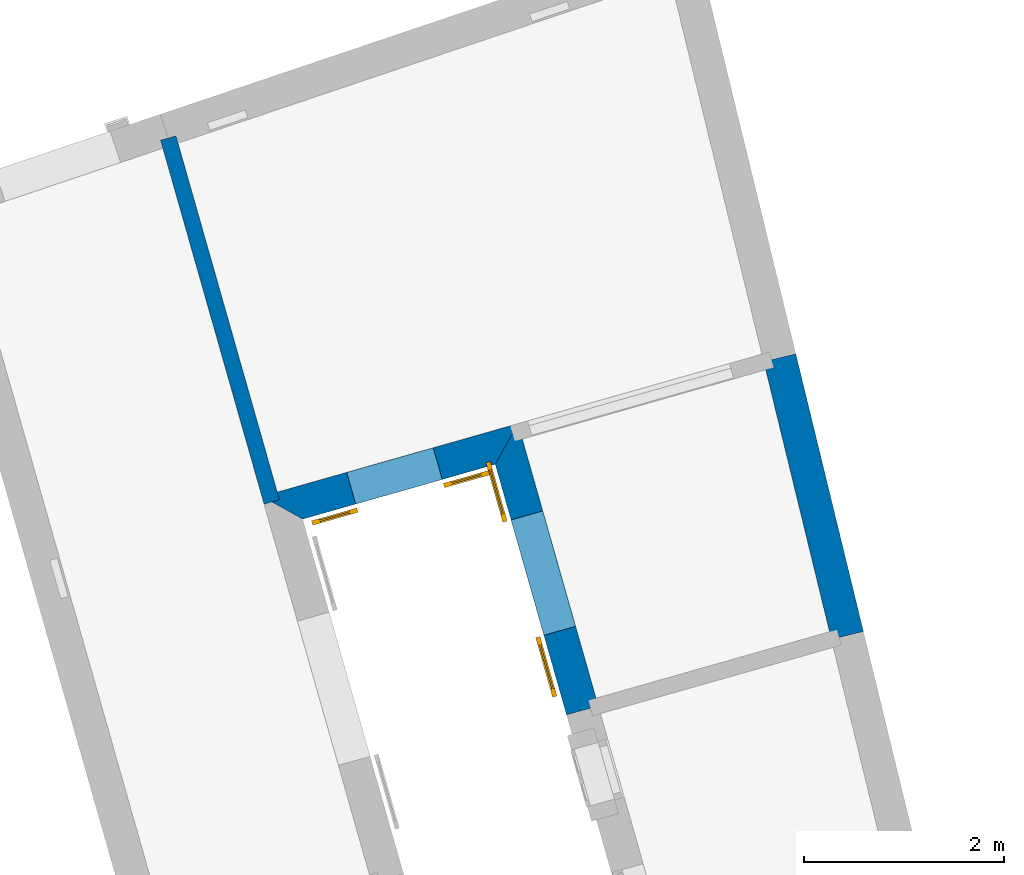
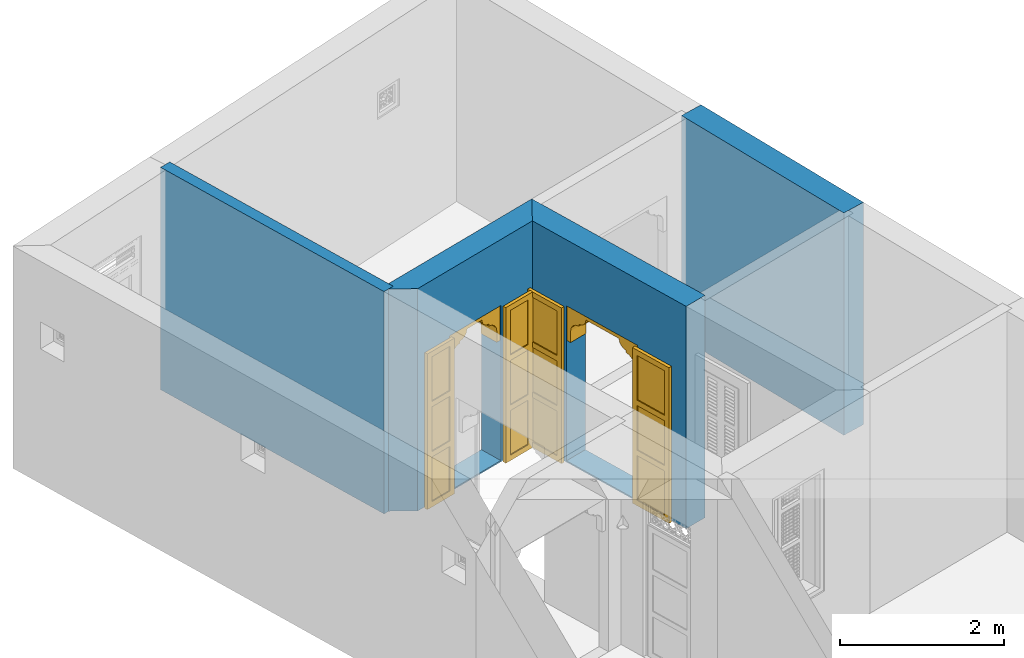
# One storey, part 10 of 14: 4 walls, 2 doors, 2 openings.
"""IFC4 building model written with IfcOpenShell, lengths in metres."""

from ifc_helpers import new_model, si_unit, frame, origin, origin_with_axes, place, context, subcontext, project, spatial, polyline, outline, extrude, faceted_brep, source, transform, mapped, material, layer, layer_set, layer_usage, type_object, type_shapes, element, fill, save


model = new_model("IFC4")

# Units and contexts
model_context = context("Model", 3, world=origin_with_axes())
body_context = subcontext(model_context, "Body", "Model", "MODEL_VIEW")
ifc_project = project(units=[si_unit("PLANEANGLEUNIT", "RADIAN"), si_unit("MASSUNIT", "GRAM", prefix="KILO"), si_unit("FORCEUNIT", "NEWTON", prefix="KILO"), si_unit("LENGTHUNIT", "METRE"), si_unit("AREAUNIT", "SQUARE_METRE"), si_unit("VOLUMEUNIT", "CUBIC_METRE")], contexts=[model_context, model_context])

# Site, building, storey
site_placement = place(None, origin_with_axes())
site = spatial("IfcSite", under=ifc_project, at=site_placement, Name="Site plot-3", CompositionType="ELEMENT")
building_placement = place(None, origin_with_axes())
building = spatial("IfcBuilding", under=site, at=building_placement, Name="Building plot-3", CompositionType="ELEMENT")
storey_placement = place(None, origin_with_axes())
storey = spatial("IfcBuildingStorey", under=building, at=storey_placement, Name="plot-3 0", CompositionType="ELEMENT", Elevation=0.0)

# Wall, opening, door
ifc_material_1 = material(Name="Masonry")
ifc_layer_1 = layer(ifc_material_1, 0.33, ventilated=False)
ifc_layer_set_1 = layer_set([ifc_layer_1], Name="exterior_0.08_0.25")
ifc_layer_usage_1 = layer_usage(ifc_layer_set_1, "AXIS2", "POSITIVE", -0.25)
wall_type_1 = type_object("IfcWallType", Name="exterior_0.08_0.25", PredefinedType="SOLIDWALL", material=ifc_layer_set_1)
wall_1_placement = place(storey_placement, frame((10.0595193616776, 25.1326103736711, 0.0), z_axis=(0.0, 0.0, 1.0), x_axis=(0.961841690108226, 0.273606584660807, 0.0)))
wall_1 = element("IfcWall", 1, at=wall_1_placement, inside=storey, type_object=wall_type_1, material=ifc_layer_usage_1, Name="exterior", context=body_context, shape_type="SweptSolid", body=[
    extrude(outline(polyline([(-0.0800000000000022, 0.0800000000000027), (0.250000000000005, -0.249999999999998), (2.25293777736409, -0.250000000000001), (2.58293777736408, 0.0799999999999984), (-0.0800000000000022, 0.0800000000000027)])), origin_with_axes(), (0.0, 0.0, 1.0), 3.3),
])
opening_1_placement = place(wall_1_placement, frame((0.801468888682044, 0.0, 0.02)))
opening_1 = element("IfcOpeningElement", 2, at=opening_1_placement, cuts=wall_1, Name="My Opening", ObjectType="Opening", context=body_context, shape_type="SweptSolid", body=[
    extrude(outline(polyline([(0.0, -0.27), (0.9, -0.270000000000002), (0.899999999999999, 1.1), (-1.55431223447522e-15, 1.1), (0.0, -0.27)])), origin_with_axes(), (0.0, 0.0, 1.0), 2.3),
])
door_type_1 = type_object("IfcDoorType", Name="arch-900x2300", OperationType="SINGLE_SWING_LEFT", PredefinedType="NOTDEFINED")
shared_shape_1 = source(origin(), body_context, "Body", "Brep", [
    faceted_brep([(-0.08, -0.02, 0.08), (-0.08, -0.02, 0.0), (-0.39, -0.02, 0.0), (-0.39, -0.02, 0.08), (-0.47, -0.02, 0.0), (-0.47, -0.02, 0.08), (-0.39, -0.035, 0.08), (-0.08, -0.035, 0.08), (0.0, -0.02, 0.08), (0.0, -0.02, 0.0), (-0.08, -0.066, 0.0), (-0.39, -0.066, 0.0), (-0.47, -0.066, 0.0), (-0.47, -0.066, 0.08), (-0.39, -0.02, 0.743333), (-0.47, -0.02, 0.743333), (-0.39, -0.035, 0.743333), (-0.08, -0.035, 0.743333), (-0.08, -0.02, 0.743333), (0.0, -0.02, 0.743333), (0.0, -0.066, 0.08), (0.0, -0.066, 0.0), (-0.39, -0.066, 0.08), (-0.08, -0.066, 0.08), (-0.47, -0.066, 0.743333), (-0.39, -0.02, 0.823333), (-0.47, -0.02, 0.823333), (0.0, -0.066, 0.743333), (0.0, -0.02, 0.823333), (-0.08, -0.02, 0.823333), (-0.08, -0.051, 0.08), (-0.39, -0.051, 0.08), (-0.39, -0.066, 0.743333), (-0.47, -0.066, 0.823333), (-0.39, -0.02, 1.486667), (-0.47, -0.02, 1.486667), (0.0, -0.066, 0.823333), (-0.08, -0.066, 0.743333), (0.0, -0.02, 1.486667), (-0.08, -0.02, 1.486667), (-0.08, -0.051, 0.743333), (-0.39, -0.051, 0.743333), (-0.39, -0.066, 0.823333), (-0.47, -0.066, 1.486667), (-0.39, -0.035, 0.823333), (-0.08, -0.035, 0.823333), (-0.39, -0.035, 1.486667), (-0.39, -0.02, 1.566667), (-0.47, -0.02, 1.566667), (0.0, -0.066, 1.486667), (-0.08, -0.066, 0.823333), (-0.08, -0.035, 1.486667), (0.0, -0.02, 1.566667), (-0.08, -0.02, 1.566667), (-0.39, -0.066, 1.486667), (-0.47, -0.066, 1.566667), (-0.39, -0.02, 2.23), (-0.47, -0.02, 2.23), (0.0, -0.066, 1.566667), (-0.08, -0.066, 1.486667), (0.0, -0.02, 2.23), (-0.08, -0.02, 2.23), (-0.08, -0.051, 0.823333), (-0.39, -0.051, 0.823333), (-0.39, -0.051, 1.486667), (-0.39, -0.066, 1.566667), (-0.47, -0.066, 2.23), (-0.39, -0.035, 1.566667), (-0.08, -0.035, 1.566667), (-0.39, -0.035, 2.23), (-0.39, -0.02, 2.31), (-0.47, -0.02, 2.31), (0.0, -0.066, 2.23), (-0.08, -0.066, 1.566667), (-0.08, -0.051, 1.486667), (-0.08, -0.035, 2.23), (0.0, -0.02, 2.31), (-0.08, -0.02, 2.31), (-0.39, -0.066, 2.23), (-0.47, -0.066, 2.31), (-0.39, -0.066, 2.31), (0.0, -0.066, 2.31), (-0.08, -0.066, 2.23), (-0.08, -0.066, 2.31), (-0.08, -0.051, 1.566667), (-0.39, -0.051, 1.566667), (-0.39, -0.051, 2.23), (-0.08, -0.051, 2.23), (1.29, -0.02, 0.08), (1.29, -0.02, 0.0), (0.98, -0.02, 0.0), (0.98, -0.02, 0.08), (1.37, -0.02, 0.08), (1.37, -0.02, 0.0), (0.98, -0.035, 0.08), (1.29, -0.035, 0.08), (0.9, -0.02, 0.0), (0.9, -0.02, 0.08), (1.29, -0.066, 0.0), (0.98, -0.066, 0.0), (1.37, -0.066, 0.08), (1.37, -0.066, 0.0), (1.37, -0.02, 0.743333), (1.29, -0.02, 0.743333), (1.29, -0.035, 0.743333), (0.98, -0.035, 0.743333), (0.98, -0.02, 0.743333), (0.9, -0.02, 0.743333), (0.9, -0.066, 0.0), (0.9, -0.066, 0.08), (0.98, -0.066, 0.08), (1.29, -0.066, 0.08), (1.37, -0.066, 0.743333), (1.37, -0.02, 0.823333), (1.29, -0.02, 0.823333), (0.9, -0.066, 0.743333), (0.98, -0.02, 0.823333), (0.9, -0.02, 0.823333), (1.29, -0.051, 0.08), (0.98, -0.051, 0.08), (1.29, -0.066, 0.743333), (1.37, -0.066, 0.823333), (1.37, -0.02, 1.486667), (1.29, -0.02, 1.486667), (0.9, -0.066, 0.823333), (0.98, -0.066, 0.743333), (0.98, -0.02, 1.486667), (0.9, -0.02, 1.486667), (0.98, -0.051, 0.743333), (1.29, -0.051, 0.743333), (1.29, -0.066, 0.823333), (1.37, -0.066, 1.486667), (0.98, -0.035, 0.823333), (1.29, -0.035, 0.823333), (1.29, -0.035, 1.486667), (1.37, -0.02, 1.566667), (1.29, -0.02, 1.566667), (0.9, -0.066, 1.486667), (0.98, -0.066, 0.823333), (0.98, -0.035, 1.486667), (0.98, -0.02, 1.566667), (0.9, -0.02, 1.566667), (1.29, -0.066, 1.486667), (1.37, -0.066, 1.566667), (1.37, -0.02, 2.23), (1.29, -0.02, 2.23), (0.9, -0.066, 1.566667), (0.98, -0.066, 1.486667), (0.98, -0.02, 2.23), (0.9, -0.02, 2.23), (1.29, -0.051, 0.823333), (0.98, -0.051, 0.823333), (1.29, -0.051, 1.486667), (1.29, -0.066, 1.566667), (1.37, -0.066, 2.23), (0.98, -0.035, 1.566667), (1.29, -0.035, 1.566667), (1.29, -0.035, 2.23), (1.37, -0.02, 2.31), (1.29, -0.02, 2.31), (0.9, -0.066, 2.23), (0.98, -0.066, 1.566667), (0.98, -0.051, 1.486667), (0.98, -0.035, 2.23), (0.98, -0.02, 2.31), (0.9, -0.02, 2.31), (1.29, -0.066, 2.23), (1.37, -0.066, 2.31), (1.29, -0.066, 2.31), (0.9, -0.066, 2.31), (0.98, -0.066, 2.23), (0.98, -0.066, 2.31), (1.29, -0.051, 1.566667), (0.98, -0.051, 1.566667), (1.29, -0.051, 2.23), (0.98, -0.051, 2.23), (0.9, 0.03, 1.78), (0.9, 0.03, 1.95), (0.84, 0.03, 1.95), (0.84, 0.03, 1.78), (0.84, 0.3, 1.95), (0.84, 0.3, 1.78), (0.9, 0.03, 2.12), (0.829, 0.03, 2.004), (0.9, 0.3, 1.78), (0.9, 0.3, 1.95), (0.829, 0.3, 2.004), (0.799, 0.03, 2.049), (0.9, 0.3, 2.12), (0.799, 0.3, 2.049), (0.754, 0.03, 2.079), (0.9, 0.3, 2.29), (0.9, 0.03, 2.29), (0.754, 0.3, 2.079), (0.7, 0.03, 2.09), (0.7, 0.03, 2.12), (0.654, 0.03, 2.129), (0.58, 0.3, 2.29), (0.58, 0.03, 2.29), (0.7, 0.3, 2.12), (0.654, 0.3, 2.129), (0.7, 0.3, 2.09), (0.615, 0.03, 2.155), (0.589, 0.3, 2.194), (0.58, 0.3, 2.24), (0.58, 0.03, 2.24), (0.589, 0.03, 2.194), (0.615, 0.3, 2.155), (0.06, 0.03, 1.78), (0.06, 0.03, 1.95), (0.0, 0.03, 1.95), (0.0, 0.03, 1.78), (0.06, 0.3, 1.78), (0.06, 0.3, 1.95), (0.071, 0.03, 2.004), (0.0, 0.03, 2.12), (0.0, 0.3, 1.95), (0.0, 0.3, 1.78), (0.071, 0.3, 2.004), (0.101, 0.03, 2.049), (0.0, 0.3, 2.12), (0.101, 0.3, 2.049), (0.146, 0.03, 2.079), (0.0, 0.03, 2.29), (0.0, 0.3, 2.29), (0.146, 0.3, 2.079), (0.2, 0.03, 2.12), (0.2, 0.03, 2.09), (0.246, 0.03, 2.129), (0.32, 0.03, 2.29), (0.32, 0.3, 2.29), (0.246, 0.3, 2.129), (0.2, 0.3, 2.12), (0.2, 0.3, 2.09), (0.285, 0.03, 2.155), (0.32, 0.3, 2.24), (0.311, 0.3, 2.194), (0.311, 0.03, 2.194), (0.32, 0.03, 2.24), (0.285, 0.3, 2.155)], [[[0, 1, 2, 3]], [[4, 5, 3, 2]], [[0, 3, 6, 7]], [[1, 0, 8, 9]], [[2, 1, 10, 11]], [[5, 4, 12, 13]], [[14, 3, 5, 15]], [[4, 2, 11, 12]], [[3, 14, 16, 6]], [[6, 16, 17, 7]], [[18, 0, 7, 17]], [[0, 18, 19, 8]], [[9, 8, 20, 21]], [[1, 9, 21, 10]], [[22, 11, 10, 23]], [[13, 12, 11, 22]], [[15, 5, 13, 24]], [[25, 14, 15, 26]], [[14, 18, 17, 16]], [[8, 19, 27, 20]], [[28, 19, 18, 29]], [[23, 10, 21, 20]], [[22, 23, 30, 31]], [[22, 32, 24, 13]], [[26, 15, 24, 33]], [[29, 18, 14, 25]], [[34, 25, 26, 35]], [[19, 28, 36, 27]], [[20, 27, 37, 23]], [[38, 28, 29, 39]], [[23, 37, 40, 30]], [[41, 31, 30, 40]], [[32, 22, 31, 41]], [[32, 42, 33, 24]], [[35, 26, 33, 43]], [[29, 25, 44, 45]], [[25, 34, 46, 44]], [[47, 34, 35, 48]], [[28, 38, 49, 36]], [[27, 36, 50, 37]], [[39, 29, 45, 51]], [[52, 38, 39, 53]], [[37, 32, 41, 40]], [[37, 50, 42, 32]], [[42, 54, 43, 33]], [[48, 35, 43, 55]], [[44, 46, 51, 45]], [[34, 39, 51, 46]], [[34, 47, 53, 39]], [[56, 47, 48, 57]], [[38, 52, 58, 49]], [[36, 49, 59, 50]], [[60, 52, 53, 61]], [[42, 50, 62, 63]], [[54, 42, 63, 64]], [[54, 65, 55, 43]], [[57, 48, 55, 66]], [[53, 47, 67, 68]], [[47, 56, 69, 67]], [[70, 56, 57, 71]], [[52, 60, 72, 58]], [[49, 58, 73, 59]], [[50, 59, 74, 62]], [[61, 53, 68, 75]], [[76, 60, 61, 77]], [[64, 63, 62, 74]], [[59, 54, 64, 74]], [[65, 54, 59, 73]], [[65, 78, 66, 55]], [[71, 57, 66, 79]], [[67, 69, 75, 68]], [[56, 61, 75, 69]], [[77, 61, 56, 70]], [[70, 71, 79, 80]], [[60, 76, 81, 72]], [[58, 72, 82, 73]], [[76, 77, 83, 81]], [[65, 73, 84, 85]], [[78, 65, 85, 86]], [[78, 80, 79, 66]], [[77, 70, 80, 83]], [[72, 81, 83, 82]], [[73, 82, 87, 84]], [[86, 85, 84, 87]], [[82, 78, 86, 87]], [[82, 83, 80, 78]], [[88, 89, 90, 91]], [[89, 88, 92, 93]], [[94, 95, 88, 91]], [[96, 97, 91, 90]], [[98, 99, 90, 89]], [[100, 101, 93, 92]], [[102, 92, 88, 103]], [[101, 98, 89, 93]], [[95, 104, 103, 88]], [[94, 105, 104, 95]], [[105, 94, 91, 106]], [[97, 107, 106, 91]], [[108, 109, 97, 96]], [[99, 108, 96, 90]], [[110, 99, 98, 111]], [[111, 98, 101, 100]], [[112, 100, 92, 102]], [[113, 102, 103, 114]], [[104, 105, 106, 103]], [[109, 115, 107, 97]], [[116, 106, 107, 117]], [[109, 108, 99, 110]], [[118, 119, 110, 111]], [[100, 112, 120, 111]], [[121, 112, 102, 113]], [[114, 103, 106, 116]], [[122, 113, 114, 123]], [[115, 124, 117, 107]], [[110, 125, 115, 109]], [[126, 116, 117, 127]], [[119, 128, 125, 110]], [[128, 119, 118, 129]], [[129, 118, 111, 120]], [[112, 121, 130, 120]], [[131, 121, 113, 122]], [[132, 133, 114, 116]], [[133, 134, 123, 114]], [[135, 122, 123, 136]], [[124, 137, 127, 117]], [[125, 138, 124, 115]], [[139, 132, 116, 126]], [[140, 126, 127, 141]], [[128, 129, 120, 125]], [[120, 130, 138, 125]], [[121, 131, 142, 130]], [[143, 131, 122, 135]], [[132, 139, 134, 133]], [[134, 139, 126, 123]], [[126, 140, 136, 123]], [[144, 135, 136, 145]], [[137, 146, 141, 127]], [[138, 147, 137, 124]], [[148, 140, 141, 149]], [[150, 151, 138, 130]], [[152, 150, 130, 142]], [[131, 143, 153, 142]], [[154, 143, 135, 144]], [[155, 156, 136, 140]], [[156, 157, 145, 136]], [[158, 144, 145, 159]], [[146, 160, 149, 141]], [[147, 161, 146, 137]], [[151, 162, 147, 138]], [[163, 155, 140, 148]], [[164, 148, 149, 165]], [[162, 151, 150, 152]], [[162, 152, 142, 147]], [[161, 147, 142, 153]], [[143, 154, 166, 153]], [[167, 154, 144, 158]], [[155, 163, 157, 156]], [[157, 163, 148, 145]], [[159, 145, 148, 164]], [[168, 167, 158, 159]], [[160, 169, 165, 149]], [[161, 170, 160, 146]], [[169, 171, 164, 165]], [[172, 173, 161, 153]], [[174, 172, 153, 166]], [[154, 167, 168, 166]], [[171, 168, 159, 164]], [[170, 171, 169, 160]], [[173, 175, 170, 161]], [[175, 173, 172, 174]], [[175, 174, 166, 170]], [[166, 168, 171, 170]], [[176, 177, 178, 179]], [[180, 181, 179, 178]], [[177, 182, 183, 178]], [[177, 176, 184, 185]], [[181, 184, 176, 179]], [[181, 180, 185, 184]], [[186, 180, 178, 183]], [[182, 187, 183]], [[182, 177, 185, 188]], [[180, 186, 188, 185]], [[189, 186, 183, 187]], [[182, 190, 187]], [[188, 191, 192, 182]], [[188, 186, 189]], [[193, 189, 187, 190]], [[194, 190, 182, 195]], [[182, 192, 196, 195]], [[192, 191, 197, 198]], [[199, 200, 191, 188]], [[188, 189, 193]], [[201, 193, 190, 194]], [[199, 201, 194, 195]], [[200, 199, 195, 196]], [[192, 202, 196]], [[191, 203, 204, 197]], [[192, 198, 205, 206]], [[207, 191, 200]], [[199, 188, 193, 201]], [[207, 200, 196, 202]], [[192, 206, 202]], [[204, 203, 206, 205]], [[203, 191, 207]], [[203, 207, 202, 206]], [[208, 209, 210, 211]], [[209, 208, 212, 213]], [[209, 214, 215, 210]], [[211, 210, 216, 217]], [[208, 211, 217, 212]], [[217, 216, 213, 212]], [[214, 209, 213, 218]], [[214, 219, 215]], [[220, 216, 210, 215]], [[216, 220, 218, 213]], [[219, 214, 218, 221]], [[219, 222, 215]], [[215, 223, 224, 220]], [[221, 218, 220]], [[222, 219, 221, 225]], [[226, 215, 222, 227]], [[226, 228, 223, 215]], [[229, 230, 224, 223]], [[220, 224, 231, 232]], [[225, 221, 220]], [[227, 222, 225, 233]], [[226, 227, 233, 232]], [[228, 226, 232, 231]], [[228, 234, 223]], [[230, 235, 236, 224]], [[237, 238, 229, 223]], [[231, 224, 239]], [[233, 225, 220, 232]], [[234, 228, 231, 239]], [[234, 237, 223]], [[238, 237, 236, 235]], [[239, 224, 236]], [[237, 234, 239, 236]], [[238, 235, 204, 205]], [[235, 230, 197, 204]], [[229, 238, 205, 198]], [[230, 229, 198, 197]]]),
])
type_shapes(door_type_1, [shared_shape_1])
door_1_placement = place(storey_placement, frame((10.9042793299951, 25.0922002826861, 0.02), z_axis=(0.0, 0.0, 1.0), x_axis=(0.865657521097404, 0.246245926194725, 0.0)))
door_1 = element("IfcDoor", 3, at=door_1_placement, inside=storey, type_object=door_type_1, Name="living sahn door", OverallHeight=2.3, OverallWidth=0.9, context=body_context, shape_type="MappedRepresentation", body=[
    mapped(shared_shape_1, transform((0.0, 0.0, 0.0), scale=1.0)),
])
fill(opening_1, door_1)

wall_2_placement = place(storey_placement, frame((12.4669492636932, 25.8174306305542, 0.0), z_axis=(0.0, 0.0, 1.0), x_axis=(0.273606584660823, -0.961841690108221, 0.0)))
wall_2 = element("IfcWall", 4, at=wall_2_placement, inside=storey, type_object=wall_type_1, material=ifc_layer_usage_1, Name="exterior", context=body_context, shape_type="SweptSolid", body=[
    extrude(outline(polyline([(-0.0799999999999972, 0.0799999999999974), (0.249999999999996, -0.249999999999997), (2.85580009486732, -0.25), (2.85580009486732, 0.0800000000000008), (-0.0799999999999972, 0.0799999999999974)])), origin_with_axes(), (0.0, 0.0, 1.0), 3.3),
])
opening_2_placement = place(wall_2_placement, frame((0.827900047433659, 0.0, 0.02)))
opening_2 = element("IfcOpeningElement", 5, at=opening_2_placement, cuts=wall_2, Name="My Opening", ObjectType="Opening", context=body_context, shape_type="SweptSolid", body=[
    extrude(outline(polyline([(0.0, -0.270000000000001), (1.2, -0.270000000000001), (1.2, 1.1), (-1.55431223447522e-15, 1.1), (0.0, -0.270000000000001)])), origin_with_axes(), (0.0, 0.0, 1.0), 2.3),
])
door_type_2 = type_object("IfcDoorType", Name="arch-1200x2300", OperationType="SINGLE_SWING_LEFT", PredefinedType="NOTDEFINED")
shared_shape_2 = source(origin(), body_context, "Body", "Brep", [
    faceted_brep([(-0.08, -0.02, 0.08), (-0.08, -0.02, 0.0), (-0.54, -0.02, 0.0), (-0.54, -0.02, 0.08), (-0.62, -0.02, 0.0), (-0.62, -0.02, 0.08), (-0.54, -0.035, 0.08), (-0.08, -0.035, 0.08), (0.0, -0.02, 0.08), (0.0, -0.02, 0.0), (-0.08, -0.066, 0.0), (-0.54, -0.066, 0.0), (-0.62, -0.066, 0.0), (-0.62, -0.066, 0.08), (-0.54, -0.02, 0.743333), (-0.62, -0.02, 0.743333), (-0.54, -0.035, 0.743333), (-0.08, -0.035, 0.743333), (-0.08, -0.02, 0.743333), (0.0, -0.02, 0.743333), (0.0, -0.066, 0.08), (0.0, -0.066, 0.0), (-0.54, -0.066, 0.08), (-0.08, -0.066, 0.08), (-0.62, -0.066, 0.743333), (-0.54, -0.02, 0.823333), (-0.62, -0.02, 0.823333), (0.0, -0.066, 0.743333), (0.0, -0.02, 0.823333), (-0.08, -0.02, 0.823333), (-0.08, -0.051, 0.08), (-0.54, -0.051, 0.08), (-0.54, -0.066, 0.743333), (-0.62, -0.066, 0.823333), (-0.54, -0.02, 1.486667), (-0.62, -0.02, 1.486667), (0.0, -0.066, 0.823333), (-0.08, -0.066, 0.743333), (0.0, -0.02, 1.486667), (-0.08, -0.02, 1.486667), (-0.08, -0.051, 0.743333), (-0.54, -0.051, 0.743333), (-0.54, -0.066, 0.823333), (-0.62, -0.066, 1.486667), (-0.54, -0.035, 0.823333), (-0.08, -0.035, 0.823333), (-0.54, -0.035, 1.486667), (-0.54, -0.02, 1.566667), (-0.62, -0.02, 1.566667), (0.0, -0.066, 1.486667), (-0.08, -0.066, 0.823333), (-0.08, -0.035, 1.486667), (0.0, -0.02, 1.566667), (-0.08, -0.02, 1.566667), (-0.54, -0.066, 1.486667), (-0.62, -0.066, 1.566667), (-0.54, -0.02, 2.23), (-0.62, -0.02, 2.23), (0.0, -0.066, 1.566667), (-0.08, -0.066, 1.486667), (0.0, -0.02, 2.23), (-0.08, -0.02, 2.23), (-0.08, -0.051, 0.823333), (-0.54, -0.051, 0.823333), (-0.54, -0.051, 1.486667), (-0.54, -0.066, 1.566667), (-0.62, -0.066, 2.23), (-0.54, -0.035, 1.566667), (-0.08, -0.035, 1.566667), (-0.54, -0.035, 2.23), (-0.54, -0.02, 2.31), (-0.62, -0.02, 2.31), (0.0, -0.066, 2.23), (-0.08, -0.066, 1.566667), (-0.08, -0.051, 1.486667), (-0.08, -0.035, 2.23), (0.0, -0.02, 2.31), (-0.08, -0.02, 2.31), (-0.54, -0.066, 2.23), (-0.62, -0.066, 2.31), (-0.54, -0.066, 2.31), (0.0, -0.066, 2.31), (-0.08, -0.066, 2.23), (-0.08, -0.066, 2.31), (-0.08, -0.051, 1.566667), (-0.54, -0.051, 1.566667), (-0.54, -0.051, 2.23), (-0.08, -0.051, 2.23), (1.74, -0.02, 0.08), (1.74, -0.02, 0.0), (1.28, -0.02, 0.0), (1.28, -0.02, 0.08), (1.82, -0.02, 0.08), (1.82, -0.02, 0.0), (1.28, -0.035, 0.08), (1.74, -0.035, 0.08), (1.2, -0.02, 0.0), (1.2, -0.02, 0.08), (1.74, -0.066, 0.0), (1.28, -0.066, 0.0), (1.82, -0.066, 0.08), (1.82, -0.066, 0.0), (1.82, -0.02, 0.743333), (1.74, -0.02, 0.743333), (1.74, -0.035, 0.743333), (1.28, -0.035, 0.743333), (1.28, -0.02, 0.743333), (1.2, -0.02, 0.743333), (1.2, -0.066, 0.0), (1.2, -0.066, 0.08), (1.28, -0.066, 0.08), (1.74, -0.066, 0.08), (1.82, -0.066, 0.743333), (1.82, -0.02, 0.823333), (1.74, -0.02, 0.823333), (1.2, -0.066, 0.743333), (1.28, -0.02, 0.823333), (1.2, -0.02, 0.823333), (1.74, -0.051, 0.08), (1.28, -0.051, 0.08), (1.74, -0.066, 0.743333), (1.82, -0.066, 0.823333), (1.82, -0.02, 1.486667), (1.74, -0.02, 1.486667), (1.2, -0.066, 0.823333), (1.28, -0.066, 0.743333), (1.28, -0.02, 1.486667), (1.2, -0.02, 1.486667), (1.28, -0.051, 0.743333), (1.74, -0.051, 0.743333), (1.74, -0.066, 0.823333), (1.82, -0.066, 1.486667), (1.28, -0.035, 0.823333), (1.74, -0.035, 0.823333), (1.74, -0.035, 1.486667), (1.82, -0.02, 1.566667), (1.74, -0.02, 1.566667), (1.2, -0.066, 1.486667), (1.28, -0.066, 0.823333), (1.28, -0.035, 1.486667), (1.28, -0.02, 1.566667), (1.2, -0.02, 1.566667), (1.74, -0.066, 1.486667), (1.82, -0.066, 1.566667), (1.82, -0.02, 2.23), (1.74, -0.02, 2.23), (1.2, -0.066, 1.566667), (1.28, -0.066, 1.486667), (1.28, -0.02, 2.23), (1.2, -0.02, 2.23), (1.74, -0.051, 0.823333), (1.28, -0.051, 0.823333), (1.74, -0.051, 1.486667), (1.74, -0.066, 1.566667), (1.82, -0.066, 2.23), (1.28, -0.035, 1.566667), (1.74, -0.035, 1.566667), (1.74, -0.035, 2.23), (1.82, -0.02, 2.31), (1.74, -0.02, 2.31), (1.2, -0.066, 2.23), (1.28, -0.066, 1.566667), (1.28, -0.051, 1.486667), (1.28, -0.035, 2.23), (1.28, -0.02, 2.31), (1.2, -0.02, 2.31), (1.74, -0.066, 2.23), (1.82, -0.066, 2.31), (1.74, -0.066, 2.31), (1.2, -0.066, 2.31), (1.28, -0.066, 2.23), (1.28, -0.066, 2.31), (1.74, -0.051, 1.566667), (1.28, -0.051, 1.566667), (1.74, -0.051, 2.23), (1.28, -0.051, 2.23), (1.2, 0.03, 1.78), (1.2, 0.03, 1.95), (1.14, 0.03, 1.95), (1.14, 0.03, 1.78), (1.14, 0.3, 1.95), (1.14, 0.3, 1.78), (1.2, 0.03, 2.12), (1.129, 0.03, 2.004), (1.2, 0.3, 1.78), (1.2, 0.3, 1.95), (1.129, 0.3, 2.004), (1.099, 0.03, 2.049), (1.2, 0.3, 2.12), (1.099, 0.3, 2.049), (1.054, 0.03, 2.079), (1.2, 0.3, 2.29), (1.2, 0.03, 2.29), (1.054, 0.3, 2.079), (1.0, 0.03, 2.09), (1.0, 0.03, 2.12), (0.954, 0.03, 2.129), (0.88, 0.3, 2.29), (0.88, 0.03, 2.29), (1.0, 0.3, 2.12), (0.954, 0.3, 2.129), (1.0, 0.3, 2.09), (0.915, 0.03, 2.155), (0.889, 0.3, 2.194), (0.88, 0.3, 2.24), (0.88, 0.03, 2.24), (0.889, 0.03, 2.194), (0.915, 0.3, 2.155), (0.06, 0.03, 1.78), (0.06, 0.03, 1.95), (0.0, 0.03, 1.95), (0.0, 0.03, 1.78), (0.06, 0.3, 1.78), (0.06, 0.3, 1.95), (0.071, 0.03, 2.004), (0.0, 0.03, 2.12), (0.0, 0.3, 1.95), (0.0, 0.3, 1.78), (0.071, 0.3, 2.004), (0.101, 0.03, 2.049), (0.0, 0.3, 2.12), (0.101, 0.3, 2.049), (0.146, 0.03, 2.079), (0.0, 0.03, 2.29), (0.0, 0.3, 2.29), (0.146, 0.3, 2.079), (0.2, 0.03, 2.12), (0.2, 0.03, 2.09), (0.246, 0.03, 2.129), (0.32, 0.03, 2.29), (0.32, 0.3, 2.29), (0.246, 0.3, 2.129), (0.2, 0.3, 2.12), (0.2, 0.3, 2.09), (0.285, 0.03, 2.155), (0.32, 0.3, 2.24), (0.311, 0.3, 2.194), (0.311, 0.03, 2.194), (0.32, 0.03, 2.24), (0.285, 0.3, 2.155)], [[[0, 1, 2, 3]], [[4, 5, 3, 2]], [[0, 3, 6, 7]], [[1, 0, 8, 9]], [[2, 1, 10, 11]], [[5, 4, 12, 13]], [[14, 3, 5, 15]], [[4, 2, 11, 12]], [[3, 14, 16, 6]], [[6, 16, 17, 7]], [[18, 0, 7, 17]], [[0, 18, 19, 8]], [[9, 8, 20, 21]], [[1, 9, 21, 10]], [[22, 11, 10, 23]], [[13, 12, 11, 22]], [[15, 5, 13, 24]], [[25, 14, 15, 26]], [[14, 18, 17, 16]], [[8, 19, 27, 20]], [[28, 19, 18, 29]], [[23, 10, 21, 20]], [[22, 23, 30, 31]], [[22, 32, 24, 13]], [[26, 15, 24, 33]], [[29, 18, 14, 25]], [[34, 25, 26, 35]], [[19, 28, 36, 27]], [[20, 27, 37, 23]], [[38, 28, 29, 39]], [[23, 37, 40, 30]], [[41, 31, 30, 40]], [[32, 22, 31, 41]], [[32, 42, 33, 24]], [[35, 26, 33, 43]], [[29, 25, 44, 45]], [[25, 34, 46, 44]], [[47, 34, 35, 48]], [[28, 38, 49, 36]], [[27, 36, 50, 37]], [[39, 29, 45, 51]], [[52, 38, 39, 53]], [[37, 32, 41, 40]], [[37, 50, 42, 32]], [[42, 54, 43, 33]], [[48, 35, 43, 55]], [[44, 46, 51, 45]], [[34, 39, 51, 46]], [[34, 47, 53, 39]], [[56, 47, 48, 57]], [[38, 52, 58, 49]], [[36, 49, 59, 50]], [[60, 52, 53, 61]], [[42, 50, 62, 63]], [[54, 42, 63, 64]], [[54, 65, 55, 43]], [[57, 48, 55, 66]], [[53, 47, 67, 68]], [[47, 56, 69, 67]], [[70, 56, 57, 71]], [[52, 60, 72, 58]], [[49, 58, 73, 59]], [[50, 59, 74, 62]], [[61, 53, 68, 75]], [[76, 60, 61, 77]], [[64, 63, 62, 74]], [[59, 54, 64, 74]], [[65, 54, 59, 73]], [[65, 78, 66, 55]], [[71, 57, 66, 79]], [[67, 69, 75, 68]], [[56, 61, 75, 69]], [[77, 61, 56, 70]], [[70, 71, 79, 80]], [[60, 76, 81, 72]], [[58, 72, 82, 73]], [[76, 77, 83, 81]], [[65, 73, 84, 85]], [[78, 65, 85, 86]], [[78, 80, 79, 66]], [[77, 70, 80, 83]], [[72, 81, 83, 82]], [[73, 82, 87, 84]], [[86, 85, 84, 87]], [[82, 78, 86, 87]], [[82, 83, 80, 78]], [[88, 89, 90, 91]], [[89, 88, 92, 93]], [[94, 95, 88, 91]], [[96, 97, 91, 90]], [[98, 99, 90, 89]], [[100, 101, 93, 92]], [[102, 92, 88, 103]], [[101, 98, 89, 93]], [[95, 104, 103, 88]], [[94, 105, 104, 95]], [[105, 94, 91, 106]], [[97, 107, 106, 91]], [[108, 109, 97, 96]], [[99, 108, 96, 90]], [[110, 99, 98, 111]], [[111, 98, 101, 100]], [[112, 100, 92, 102]], [[113, 102, 103, 114]], [[104, 105, 106, 103]], [[109, 115, 107, 97]], [[116, 106, 107, 117]], [[109, 108, 99, 110]], [[118, 119, 110, 111]], [[100, 112, 120, 111]], [[121, 112, 102, 113]], [[114, 103, 106, 116]], [[122, 113, 114, 123]], [[115, 124, 117, 107]], [[110, 125, 115, 109]], [[126, 116, 117, 127]], [[119, 128, 125, 110]], [[128, 119, 118, 129]], [[129, 118, 111, 120]], [[112, 121, 130, 120]], [[131, 121, 113, 122]], [[132, 133, 114, 116]], [[133, 134, 123, 114]], [[135, 122, 123, 136]], [[124, 137, 127, 117]], [[125, 138, 124, 115]], [[139, 132, 116, 126]], [[140, 126, 127, 141]], [[128, 129, 120, 125]], [[120, 130, 138, 125]], [[121, 131, 142, 130]], [[143, 131, 122, 135]], [[132, 139, 134, 133]], [[134, 139, 126, 123]], [[126, 140, 136, 123]], [[144, 135, 136, 145]], [[137, 146, 141, 127]], [[138, 147, 137, 124]], [[148, 140, 141, 149]], [[150, 151, 138, 130]], [[152, 150, 130, 142]], [[131, 143, 153, 142]], [[154, 143, 135, 144]], [[155, 156, 136, 140]], [[156, 157, 145, 136]], [[158, 144, 145, 159]], [[146, 160, 149, 141]], [[147, 161, 146, 137]], [[151, 162, 147, 138]], [[163, 155, 140, 148]], [[164, 148, 149, 165]], [[162, 151, 150, 152]], [[162, 152, 142, 147]], [[161, 147, 142, 153]], [[143, 154, 166, 153]], [[167, 154, 144, 158]], [[155, 163, 157, 156]], [[157, 163, 148, 145]], [[159, 145, 148, 164]], [[168, 167, 158, 159]], [[160, 169, 165, 149]], [[161, 170, 160, 146]], [[169, 171, 164, 165]], [[172, 173, 161, 153]], [[174, 172, 153, 166]], [[154, 167, 168, 166]], [[171, 168, 159, 164]], [[170, 171, 169, 160]], [[173, 175, 170, 161]], [[175, 173, 172, 174]], [[175, 174, 166, 170]], [[166, 168, 171, 170]], [[176, 177, 178, 179]], [[180, 181, 179, 178]], [[177, 182, 183, 178]], [[177, 176, 184, 185]], [[181, 184, 176, 179]], [[181, 180, 185, 184]], [[186, 180, 178, 183]], [[182, 187, 183]], [[182, 177, 185, 188]], [[180, 186, 188, 185]], [[189, 186, 183, 187]], [[182, 190, 187]], [[188, 191, 192, 182]], [[188, 186, 189]], [[193, 189, 187, 190]], [[194, 190, 182, 195]], [[182, 192, 196, 195]], [[192, 191, 197, 198]], [[199, 200, 191, 188]], [[188, 189, 193]], [[201, 193, 190, 194]], [[199, 201, 194, 195]], [[200, 199, 195, 196]], [[192, 202, 196]], [[191, 203, 204, 197]], [[192, 198, 205, 206]], [[207, 191, 200]], [[199, 188, 193, 201]], [[207, 200, 196, 202]], [[192, 206, 202]], [[204, 203, 206, 205]], [[203, 191, 207]], [[203, 207, 202, 206]], [[208, 209, 210, 211]], [[209, 208, 212, 213]], [[209, 214, 215, 210]], [[211, 210, 216, 217]], [[208, 211, 217, 212]], [[217, 216, 213, 212]], [[214, 209, 213, 218]], [[214, 219, 215]], [[220, 216, 210, 215]], [[216, 220, 218, 213]], [[219, 214, 218, 221]], [[219, 222, 215]], [[215, 223, 224, 220]], [[221, 218, 220]], [[222, 219, 221, 225]], [[226, 215, 222, 227]], [[226, 228, 223, 215]], [[229, 230, 224, 223]], [[220, 224, 231, 232]], [[225, 221, 220]], [[227, 222, 225, 233]], [[226, 227, 233, 232]], [[228, 226, 232, 231]], [[228, 234, 223]], [[230, 235, 236, 224]], [[237, 238, 229, 223]], [[231, 224, 239]], [[233, 225, 220, 232]], [[234, 228, 231, 239]], [[234, 237, 223]], [[238, 237, 236, 235]], [[239, 224, 236]], [[237, 234, 239, 236]], [[238, 235, 204, 205]], [[235, 230, 197, 204]], [[229, 238, 205, 198]], [[230, 229, 198, 197]]]),
])
type_shapes(door_type_2, [shared_shape_2])
door_2_placement = place(storey_placement, frame((12.4337709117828, 24.9472480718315, 0.02), z_axis=(0.0, 0.0, 1.0), x_axis=(0.328327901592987, -1.15421002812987, 0.0)))
door_2 = element("IfcDoor", 6, at=door_2_placement, inside=storey, type_object=door_type_2, Name="kitchen sahn door", OverallHeight=2.3, OverallWidth=1.2, context=body_context, shape_type="MappedRepresentation", body=[
    mapped(shared_shape_2, transform((0.0, 0.0, 0.0), scale=1.0)),
])
fill(opening_2, door_2)

# Walls
ifc_material_2 = material(Name="Masonry")
ifc_layer_2 = layer(ifc_material_2, 0.33, ventilated=False)
ifc_layer_set_2 = layer_set([ifc_layer_2], Name="party_0.08_0.25")
ifc_layer_usage_2 = layer_usage(ifc_layer_set_2, "AXIS2", "POSITIVE", -0.25)
wall_type_2 = type_object("IfcWallType", Name="party_0.08_0.25", PredefinedType="SOLIDWALL", material=ifc_layer_set_2)
wall_3_placement = place(storey_placement, frame((15.7349459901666, 23.7779529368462, 0.0), z_axis=(0.0, 0.0, 1.0), x_axis=(-0.236608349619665, 0.9716051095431, 0.0)))
element("IfcWall", 7, at=wall_3_placement, inside=storey, type_object=wall_type_2, material=ifc_layer_usage_2, Name="party", context=body_context, shape_type="SweptSolid", body=[
    extrude(outline(polyline([(4.80106205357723e-15, 0.0799999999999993), (-9.31056532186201e-15, -0.250000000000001), (2.85789234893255, -0.25), (2.85789234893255, 0.0799999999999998), (4.80106205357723e-15, 0.0799999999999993)])), origin_with_axes(), (0.0, 0.0, 1.0), 3.3),
])
ifc_material_3 = material(Name="Masonry")
ifc_layer_3 = layer(ifc_material_3, 0.16, ventilated=False)
ifc_layer_set_3 = layer_set([ifc_layer_3], Name="interior_0.08_0.08")
ifc_layer_usage_3 = layer_usage(ifc_layer_set_3, "AXIS2", "POSITIVE", -0.08)
wall_type_3 = type_object("IfcWallType", Name="interior_0.08_0.08", PredefinedType="SOLIDWALL", material=ifc_layer_set_3)
wall_4_placement = place(storey_placement, frame((9.02385077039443, 28.7734190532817, 0.0), z_axis=(0.0, 0.0, 1.0), x_axis=(0.27360658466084, -0.961841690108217, 0.0)))
element("IfcWall", 8, at=wall_4_placement, inside=storey, type_object=wall_type_3, material=ifc_layer_usage_3, Name="interior", context=body_context, shape_type="SweptSolid", body=[
    extrude(outline(polyline([(1.39045692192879e-15, 0.0800000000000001), (-1.43578123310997e-15, -0.0800000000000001), (3.78524731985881, -0.0799999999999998), (3.78524731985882, 0.0800000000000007), (1.39045692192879e-15, 0.0800000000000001)])), origin_with_axes(), (0.0, 0.0, 1.0), 3.3),
])

save(model, "model.ifc")
